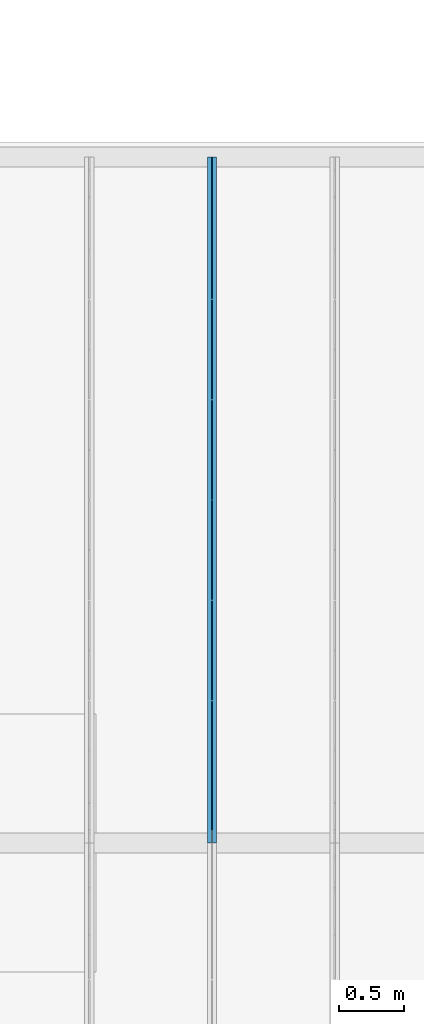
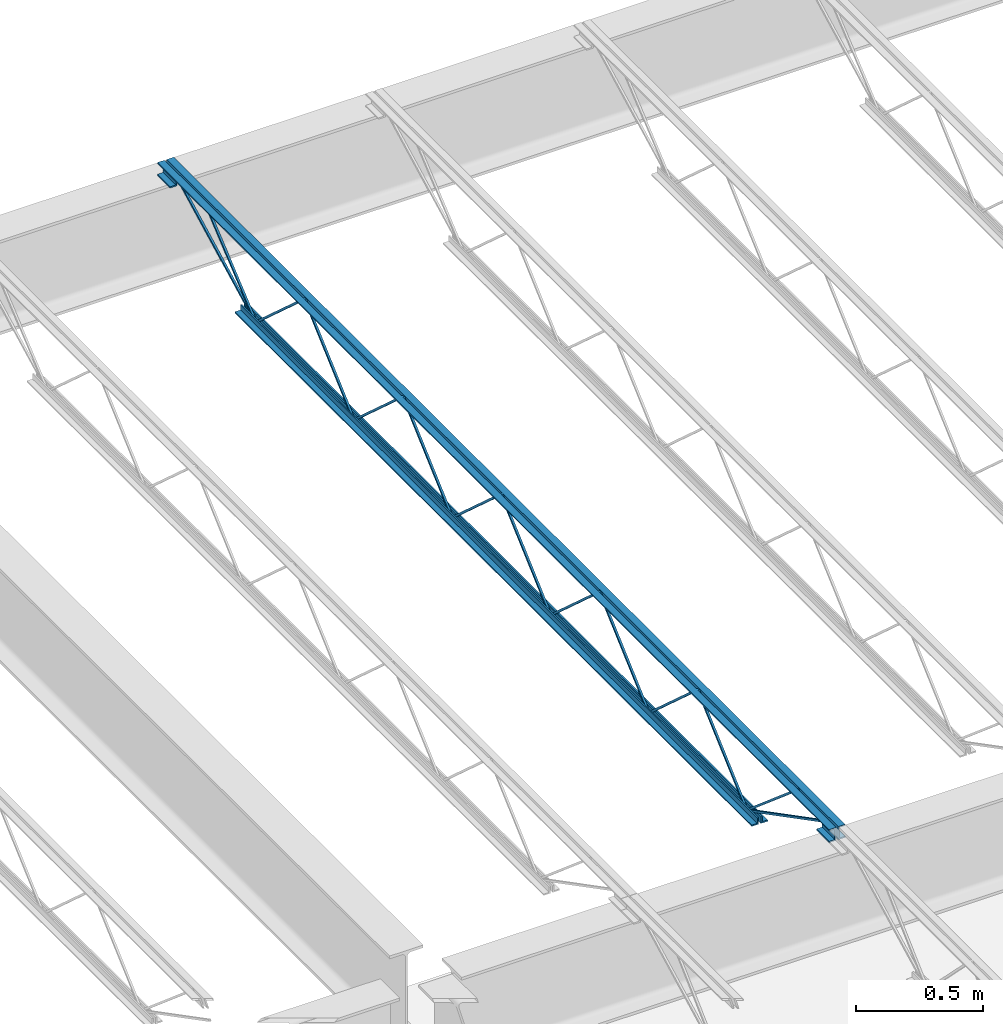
# One storey, part 66 of 75: 1 beam.
"""IFC2X3 building model written with IfcOpenShell, lengths in metres."""

import ifcopenshell
import ifcopenshell.guid

model = None  # the IFC model being written
_history = None  # IfcOwnerHistory: only IFC2X3 demands one
_inside = {}  # id of a spatial element -> (the spatial element, [elements in it])
_under = {}  # id of a project, library or spatial element -> (it, [spatial elements below it])
_declared = {}  # id of a project -> (the project, [libraries it declares])
_typed = {}  # id of a type object -> (the type object, [elements of that type])
_made_of = {}  # id of a material, layer set ... -> (it, [elements and type objects made of it])


def new_model(schema):
    """Start an empty IFC model of exactly this schema.

    Asked for "IFC4X3", IfcOpenShell would pick the latest addendum, in which some entities
    have other attributes; the version numbers below select the first issue.
    IFC2X3 requires an IfcOwnerHistory on every rooted entity: one is made here for all.
    """
    global model, _history
    if schema == "IFC4X3":
        model = ifcopenshell.file(schema_version=(4, 3, 0, 0))
    else:
        model = ifcopenshell.file(schema=schema)
    _inside.clear()
    _under.clear()
    _declared.clear()
    _typed.clear()
    _made_of.clear()
    _history = None
    if model.schema == "IFC2X3":
        org = make("IfcOrganization", Name="unknown")
        user = make(
            "IfcPersonAndOrganization",
            ThePerson=make("IfcPerson", FamilyName="unknown"),
            TheOrganization=org,
        )
        app = make(
            "IfcApplication",
            ApplicationDeveloper=org,
            Version="unknown",
            ApplicationFullName="unknown",
            ApplicationIdentifier="unknown",
        )
        _history = make(
            "IfcOwnerHistory",
            OwningUser=user,
            OwningApplication=app,
            ChangeAction="ADDED",
            CreationDate=0,
        )
    return model


def make(cls, **values):
    """One entity of the class cls with the attributes given. An attribute that is None is left unset."""
    return model.create_entity(
        cls, **{name: value for name, value in values.items() if value is not None}
    )


def entity(cls, *values):
    """Any entity or typed value of the class cls, its attributes in the order of the schema. None: left unset."""
    e = model.create_entity(cls)
    for i, value in enumerate(values):
        if value is not None:
            e[i] = value
    return e


def rooted(cls, **values):
    """An entity with a GlobalId (a new one), such as an element, a storey or a relation."""
    return make(cls, GlobalId=ifcopenshell.guid.new(), OwnerHistory=_history, **values)


def si_unit(unit_type, name, prefix=None):
    """IfcSIUnit, for example si_unit("LENGTHUNIT", "METRE", prefix="MILLI")."""
    return make("IfcSIUnit", UnitType=unit_type, Prefix=prefix, Name=name)


def converted_unit(unit_type, name, factor, base, dimensions=None, offset=None):
    """IfcConversionBasedUnit, such as the inch: factor (a typed value) times the base unit."""
    return make(
        "IfcConversionBasedUnit"
        if offset is None
        else "IfcConversionBasedUnitWithOffset",
        ConversionOffset=offset,
        Dimensions=None
        if dimensions is None
        else entity("IfcDimensionalExponents", *dimensions),
        UnitType=unit_type,
        Name=name,
        ConversionFactor=make(
            "IfcMeasureWithUnit", ValueComponent=factor, UnitComponent=base
        ),
    )


def assignment(units):
    """IfcUnitAssignment: the units of a project."""
    return None if units is None else make("IfcUnitAssignment", Units=units)


def point(xyz):
    """IfcCartesianPoint."""
    return None if xyz is None else make("IfcCartesianPoint", Coordinates=xyz)


def direction(xyz):
    """IfcDirection."""
    return None if xyz is None else make("IfcDirection", DirectionRatios=xyz)


def frame(location, z_axis=None, x_axis=None):
    """IfcAxis2Placement3D, a coordinate frame: its origin and axes. An axis left out is left unset."""
    return make(
        "IfcAxis2Placement3D",
        Location=point(location),
        Axis=direction(z_axis),
        RefDirection=direction(x_axis),
    )


def origin():
    """The frame at (0, 0, 0) with its axes left unset."""
    return frame((0.0, 0.0, 0.0))


def place(relative_to, where):
    """IfcLocalPlacement: puts the frame where relative to a parent placement (None: the world)."""
    return make(
        "IfcLocalPlacement", PlacementRelTo=relative_to, RelativePlacement=where
    )


def context(
    kind, dimensions, precision=None, world=None, true_north=None, identifier=None
):
    """IfcGeometricRepresentationContext, for example the 3D "Model" context."""
    return make(
        "IfcGeometricRepresentationContext",
        ContextIdentifier=identifier,
        ContextType=kind,
        CoordinateSpaceDimension=dimensions,
        Precision=precision,
        WorldCoordinateSystem=world,
        TrueNorth=true_north,
    )


def project(units=None, contexts=None):
    """IfcProject with its units and contexts."""
    return rooted(
        "IfcProject",
        Name="project",
        RepresentationContexts=contexts,
        UnitsInContext=assignment(units),
    )


def spatial(cls, under=None, at=None, **own):
    """A site, building, storey or space (cls), placed at a placement, below another one or the project."""
    s = rooted(cls, ObjectPlacement=at, **own)
    if under is not None:
        _under.setdefault(under.id(), (under, []))[1].append(s)
    return s


def faces_of(points, faces, orient=None, outer=None):
    """IfcFace entities. A face is a list of loops; a loop is a list of indices into points, from 0.

    orient and outer hold one flag for each loop. By default every Orientation is true, the
    first loop of a face is its IfcFaceOuterBound and the others are IfcFaceBound.
    """
    made = []
    for i, loops in enumerate(faces):
        bounds = []
        for j, loop in enumerate(loops):
            is_outer = j == 0 if outer is None else outer[i][j]
            bounds.append(
                make(
                    "IfcFaceOuterBound" if is_outer else "IfcFaceBound",
                    Bound=make("IfcPolyLoop", Polygon=[points[k] for k in loop]),
                    Orientation=True if orient is None else orient[i][j],
                )
            )
        made.append(make("IfcFace", Bounds=bounds))
    return made


def face_set(faces, orient=None, outer=None):
    """The faces of one IfcConnectedFaceSet. surface_model builds it on its shared points."""
    return ("IfcConnectedFaceSet", faces, orient, outer)


def surface_model(cls, points, shells):
    """IfcFaceBasedSurfaceModel or IfcShellBasedSurfaceModel (cls): surfaces that need not close."""
    shared = [point(p) for p in points]
    made = [make(c, CfsFaces=faces_of(shared, fs, o, b)) for c, fs, o, b in shells]
    if cls == "IfcFaceBasedSurfaceModel":
        return make(cls, FbsmFaces=made)
    return make(cls, SbsmBoundary=made)


def shape(context_of_items, identifier, shape_type, items):
    """IfcShapeRepresentation: the items that make up one representation, for example the "Body"."""
    return make(
        "IfcShapeRepresentation",
        ContextOfItems=context_of_items,
        RepresentationIdentifier=identifier,
        RepresentationType=shape_type,
        Items=items,
    )


def made_of(thing, what):
    """Note that an element or type object is made of a material, layer set ...; save() writes the relation."""
    if what is not None:
        _made_of.setdefault(what.id(), (what, []))[1].append(thing)
    return thing


def element(
    cls,
    number,
    at=None,
    inside=None,
    cuts=None,
    type_object=None,
    material=None,
    context=None,
    identifier="Body",
    shape_type=None,
    held_by="IfcProductDefinitionShape",
    body=None,
    shapes=None,
    **own,
):
    """One element of the class cls, such as IfcWall. Its Tag is "e" and its number.

    at: its placement. inside: the storey or other place that contains it. cuts: it is an
    opening in that element (IfcRelVoidsElement). A single representation is given by context,
    identifier, shape_type and body (its items); several are given by shapes. held_by: the class
    of the entity that holds the representations. save() writes the other relations.
    """
    e = rooted(cls, Tag="e%d" % number, ObjectPlacement=at, **own)
    if body is not None:
        shapes = [shape(context, identifier, shape_type, body)]
    if shapes is not None:
        e.Representation = make(held_by, Representations=shapes)
    if inside is not None:
        _inside.setdefault(inside.id(), (inside, []))[1].append(e)
    if cuts is not None:
        rooted(
            "IfcRelVoidsElement", RelatingBuildingElement=cuts, RelatedOpeningElement=e
        )
    if type_object is not None:
        _typed.setdefault(type_object.id(), (type_object, []))[1].append(e)
    return made_of(e, material)


def aggregate(whole, parts):
    """IfcRelAggregates: a whole, such as a stair, and the parts it consists of."""
    return rooted("IfcRelAggregates", RelatingObject=whole, RelatedObjects=parts)


def save(model, path):
    """Write the relations noted so far, then the file.

    IfcRelAggregates (storeys below a building ...), IfcRelContainedInSpatialStructure (elements
    in a storey), IfcRelDefinesByType, IfcRelAssociatesMaterial and IfcRelDeclares: one each for
    every whole, place, type object, material and project.
    """
    for whole, parts in _under.values():
        aggregate(whole, parts)
    for where, things in _inside.values():
        rooted(
            "IfcRelContainedInSpatialStructure",
            RelatedElements=things,
            RelatingStructure=where,
        )
    for kind, things in _typed.values():
        rooted("IfcRelDefinesByType", RelatedObjects=things, RelatingType=kind)
    for what, things in _made_of.values():
        rooted("IfcRelAssociatesMaterial", RelatedObjects=things, RelatingMaterial=what)
    for by, libraries in _declared.values():
        rooted("IfcRelDeclares", RelatingContext=by, RelatedDefinitions=libraries)
    model.write(path)


model = new_model("IFC2X3")

# Units and contexts
model_context = context("Model", 3, precision=1e-09, world=origin())
plan_context = context("Plan", 3, precision=1e-09, world=origin())
ifc_project = project(units=[si_unit("LENGTHUNIT", "METRE"), si_unit("AREAUNIT", "SQUARE_METRE"), si_unit("VOLUMEUNIT", "CUBIC_METRE"), converted_unit("PLANEANGLEUNIT", "DEGREE", entity("IfcRatioMeasure", 0.01745329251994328), si_unit("PLANEANGLEUNIT", "RADIAN"), dimensions=[0, 0, 0, 0, 0, 0, 0]), si_unit("TIMEUNIT", "SECOND")], contexts=[model_context, plan_context])

# Site, building, storey
site_placement = place(None, origin())
site = spatial("IfcSite", under=ifc_project, at=site_placement, Name="Default", CompositionType="ELEMENT")
building_placement = place(site_placement, origin())
building = spatial("IfcBuilding", under=site, at=building_placement, CompositionType="ELEMENT")
storey_placement = place(building_placement, origin())
storey = spatial("IfcBuildingStorey", under=building, at=storey_placement, Name="First Floor", CompositionType="ELEMENT", Elevation=-3.531500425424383e-13)

# Beam
beam_placement = place(storey_placement, frame((-13.01673124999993, 44.78049999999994, 4.112000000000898), z_axis=(0.0, 0.0, 1.0), x_axis=(-1.0, 0.0, 0.0)))
element("IfcBeam", 1, at=beam_placement, inside=storey, Name="M_K-Series Bar Joist-Rod Web:14K1:14K1", ObjectType="M_K-Series Bar Joist-Rod Web:14K1", context=model_context, shape_type="SurfaceModel", body=[
    surface_model("IfcFaceBasedSurfaceModel", [(-0.0320000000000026, -2.266000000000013, 0.01110000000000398), (-0.04150000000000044, -2.266000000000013, 0.01110000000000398), (-0.04150000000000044, -2.266000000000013, 0.001600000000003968), (-0.0320000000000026, -2.266000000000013, 0.001600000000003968), (-0.04150000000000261, -2.264645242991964, 0.01110000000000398), (-0.0320000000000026, -2.264645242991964, 0.01110000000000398), (-0.04150000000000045, -2.26100475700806, 0.001600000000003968), (-0.04149999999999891, -1.878854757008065, 0.3449000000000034), (-0.04149999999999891, -1.876145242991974, 0.3449000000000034), (-0.04149999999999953, -1.493995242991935, 0.001600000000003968), (-0.04149999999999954, -1.489000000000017, 0.001600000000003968), (-0.04149999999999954, -1.489000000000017, 0.01110000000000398), (-0.04149999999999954, -1.490354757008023, 0.01110000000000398), (-0.04150000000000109, -1.872504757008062, 0.3544000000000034), (-0.04150000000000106, -1.882495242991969, 0.3544000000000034), (-0.03200000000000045, -2.26100475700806, 0.001600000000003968), (-0.03200000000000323, -1.878854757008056, 0.3449000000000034), (-0.03200000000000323, -1.876145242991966, 0.3449000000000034), (-0.0320000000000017, -1.493995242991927, 0.001600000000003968), (-0.03200000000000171, -1.489000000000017, 0.001600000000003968), (-0.03200000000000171, -1.489000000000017, 0.01110000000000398), (-0.0320000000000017, -1.490354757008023, 0.01110000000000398), (-0.03200000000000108, -1.872504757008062, 0.3544000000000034), (-0.03200000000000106, -1.882495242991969, 0.3544000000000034), (-0.03200000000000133, -3.04300000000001, 0.01110000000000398), (-0.04149999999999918, -3.04300000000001, 0.01110000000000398), (-0.04149999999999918, -3.04300000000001, 0.001600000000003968), (-0.03200000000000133, -3.04300000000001, 0.001600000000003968), (-0.04150000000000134, -3.041645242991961, 0.01110000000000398), (-0.03200000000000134, -3.041645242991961, 0.01110000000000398), (-0.04149999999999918, -3.038004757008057, 0.001600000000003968), (-0.0414999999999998, -2.655854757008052, 0.3449000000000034), (-0.04149999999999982, -2.653145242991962, 0.3449000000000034), (-0.04150000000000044, -2.270995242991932, 0.001600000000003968), (-0.04149999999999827, -2.266000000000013, 0.01110000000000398), (-0.04149999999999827, -2.26735475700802, 0.01110000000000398), (-0.04149999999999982, -2.649504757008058, 0.3544000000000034), (-0.0414999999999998, -2.659495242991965, 0.3544000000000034), (-0.03199999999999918, -3.038004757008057, 0.001600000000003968), (-0.03200000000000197, -2.655854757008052, 0.3449000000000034), (-0.03200000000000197, -2.653145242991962, 0.3449000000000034), (-0.03200000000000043, -2.270995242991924, 0.001600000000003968), (-0.03200000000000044, -2.266000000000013, 0.001600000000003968), (-0.0320000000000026, -2.26735475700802, 0.01110000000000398), (-0.03200000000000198, -2.649504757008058, 0.3544000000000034), (-0.03200000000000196, -2.659495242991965, 0.3544000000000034), (-0.03200000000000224, -3.820000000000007, 0.01110000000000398), (-0.04150000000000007, -3.820000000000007, 0.01110000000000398), (-0.04150000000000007, -3.820000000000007, 0.001600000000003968), (-0.03200000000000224, -3.820000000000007, 0.001600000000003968), (-0.04150000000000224, -3.818645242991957, 0.01110000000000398), (-0.03200000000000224, -3.818645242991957, 0.01110000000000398), (-0.04150000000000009, -3.815004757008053, 0.001600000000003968), (-0.0415000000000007, -3.432854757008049, 0.3449000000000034), (-0.04150000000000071, -3.430145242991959, 0.3449000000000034), (-0.04149999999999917, -3.04799524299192, 0.001600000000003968), (-0.04149999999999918, -3.043000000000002, 0.001600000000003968), (-0.04149999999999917, -3.044354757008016, 0.01110000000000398), (-0.04150000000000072, -3.426504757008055, 0.3544000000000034), (-0.0415000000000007, -3.436495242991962, 0.3544000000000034), (-0.03200000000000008, -3.815004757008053, 0.001600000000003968), (-0.03200000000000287, -3.432854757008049, 0.3449000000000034), (-0.03200000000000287, -3.430145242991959, 0.3449000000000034), (-0.03200000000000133, -3.04799524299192, 0.001600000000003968), (-0.03200000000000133, -3.043000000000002, 0.01110000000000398), (-0.03200000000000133, -3.044354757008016, 0.01110000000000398), (-0.03200000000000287, -3.426504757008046, 0.3544000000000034), (-0.03200000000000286, -3.436495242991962, 0.3544000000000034), (-0.03200000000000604, -1.489000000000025, 0.01109999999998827), (-0.04150000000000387, -1.489000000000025, 0.01109999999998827), (-0.04150000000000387, -1.489000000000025, 0.001599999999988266), (-0.03200000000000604, -1.489000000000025, 0.001599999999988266), (-0.04150000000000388, -1.487645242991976, 0.01109999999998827), (-0.03200000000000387, -1.487645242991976, 0.01109999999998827), (-0.04150000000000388, -1.484004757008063, 0.001599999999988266), (-0.04150000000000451, -1.101854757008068, 0.3448999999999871), (-0.04150000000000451, -1.099145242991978, 0.3448999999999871), (-0.04150000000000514, -0.7169952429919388, 0.001599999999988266), (-0.04150000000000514, -0.7120000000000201, 0.001599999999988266), (-0.04150000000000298, -0.7120000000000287, 0.01109999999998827), (-0.04150000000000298, -0.7133547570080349, 0.01109999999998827), (-0.04150000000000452, -1.095504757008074, 0.3543999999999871), (-0.0415000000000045, -1.10549524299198, 0.3543999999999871), (-0.03200000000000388, -1.484004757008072, 0.001599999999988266), (-0.0320000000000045, -1.101854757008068, 0.3448999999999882), (-0.0320000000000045, -1.099145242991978, 0.3448999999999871), (-0.03200000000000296, -0.7169952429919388, 0.001599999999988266), (-0.03200000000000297, -0.7120000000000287, 0.001599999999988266), (-0.0320000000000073, -0.7120000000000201, 0.01109999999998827), (-0.03200000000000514, -0.7133547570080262, 0.01109999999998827), (-0.03200000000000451, -1.095504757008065, 0.3543999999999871), (-0.0320000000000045, -1.105495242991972, 0.3543999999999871), (-0.03200000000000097, -4.597000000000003, 0.01110000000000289), (-0.04149999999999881, -4.597000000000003, 0.01110000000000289), (-0.04149999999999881, -4.597000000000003, 0.001600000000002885), (-0.03200000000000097, -4.597000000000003, 0.001600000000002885), (-0.04150000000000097, -4.595645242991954, 0.01110000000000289), (-0.03200000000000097, -4.595645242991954, 0.01110000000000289), (-0.04149999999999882, -4.592004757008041, 0.001600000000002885), (-0.04149999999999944, -4.209854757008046, 0.3449000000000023), (-0.04149999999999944, -4.207145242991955, 0.3449000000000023), (-0.04150000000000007, -3.824995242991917, 0.001600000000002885), (-0.04150000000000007, -3.819999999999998, 0.001600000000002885), (-0.04149999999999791, -3.820000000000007, 0.01110000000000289), (-0.04149999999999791, -3.821354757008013, 0.01110000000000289), (-0.04149999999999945, -4.203504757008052, 0.3544000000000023), (-0.04149999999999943, -4.213495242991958, 0.3544000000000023), (-0.03199999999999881, -4.592004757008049, 0.001600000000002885), (-0.0320000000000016, -4.209854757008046, 0.3449000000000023), (-0.0320000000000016, -4.207145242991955, 0.3449000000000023), (-0.03200000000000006, -3.824995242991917, 0.001600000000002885), (-0.03200000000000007, -3.820000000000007, 0.001600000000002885), (-0.03200000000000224, -3.819999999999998, 0.01110000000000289), (-0.03200000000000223, -3.821354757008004, 0.01110000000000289), (-0.03200000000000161, -4.203504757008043, 0.3544000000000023), (-0.03200000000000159, -4.213495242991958, 0.3544000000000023), (-0.04150000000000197, 0.0, 0.3559999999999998), (-0.07350000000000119, 0.0, 0.3559999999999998), (-0.07350000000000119, 0.0, 0.349499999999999), (-0.04800000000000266, 0.0, 0.349499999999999), (-0.04800000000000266, 0.0, 0.3239999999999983), (-0.04150000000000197, 0.0, 0.3239999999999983), (-0.03200000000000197, 0.0, 0.3559999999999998), (-0.03200000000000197, 0.0, 0.3239999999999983), (-0.02550000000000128, 0.0, 0.3239999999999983), (-0.02550000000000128, 0.0, 0.349499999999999), (0.0, 0.0, 0.349499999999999), (0.0, 0.0, 0.3559999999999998), (-0.04150000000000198, -5.309000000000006, 0.3559999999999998), (-0.0735000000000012, -5.309000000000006, 0.3559999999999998), (-0.0735000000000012, -5.309000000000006, 0.349499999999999), (-0.04800000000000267, -5.309000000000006, 0.349499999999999), (-0.04800000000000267, -5.309000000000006, 0.3239999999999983), (-0.04150000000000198, -5.309000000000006, 0.3239999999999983), (-0.03200000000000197, -5.309000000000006, 0.3559999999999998), (-0.03200000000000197, -5.309000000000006, 0.3239999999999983), (-0.02550000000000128, -5.309000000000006, 0.3239999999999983), (-0.02550000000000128, -5.309000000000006, 0.349499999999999), (0.0, -5.309000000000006, 0.349499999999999), (0.0, -5.309000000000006, 0.3559999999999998), (-0.03200000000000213, -5.20900000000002, 0.2924999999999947), (0.0, -5.20900000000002, 0.2924999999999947), (0.0, -5.20900000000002, 0.2989999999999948), (-0.02550000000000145, -5.20900000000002, 0.2989999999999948), (-0.02550000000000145, -5.20900000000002, 0.3239999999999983), (-0.03200000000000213, -5.20900000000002, 0.3239999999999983), (-0.07350000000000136, -5.20900000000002, 0.2924999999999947), (-0.04150000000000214, -5.20900000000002, 0.2924999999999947), (-0.04150000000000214, -5.20900000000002, 0.3239999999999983), (-0.04800000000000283, -5.20900000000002, 0.3239999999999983), (-0.04800000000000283, -5.20900000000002, 0.2989999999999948), (-0.07350000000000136, -5.20900000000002, 0.2989999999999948), (-0.03200000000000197, -5.309000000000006, 0.2924999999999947), (0.0, -5.309000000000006, 0.2924999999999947), (0.0, -5.309000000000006, 0.2989999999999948), (-0.02550000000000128, -5.309000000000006, 0.2989999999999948), (-0.0735000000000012, -5.309000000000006, 0.2924999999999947), (-0.04150000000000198, -5.309000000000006, 0.2924999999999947), (-0.04800000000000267, -5.309000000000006, 0.2989999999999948), (-0.0735000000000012, -5.309000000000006, 0.2989999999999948), (-0.04150000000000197, 0.0, 0.2924999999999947), (-0.04800000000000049, 0.0, 0.3239999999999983), (-0.04800000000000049, 0.0, 0.2989999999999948), (-0.07350000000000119, 0.0, 0.2989999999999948), (-0.07350000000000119, 0.0, 0.2924999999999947), (-0.03200000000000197, 0.0, 0.2924999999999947), (0.0, 0.0, 0.2924999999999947), (0.0, 0.0, 0.2989999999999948), (-0.02550000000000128, 0.0, 0.2989999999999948), (-0.04150000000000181, -0.1000000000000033, 0.2924999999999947), (-0.04150000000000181, -0.1000000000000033, 0.3239999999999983), (-0.04800000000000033, -0.1000000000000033, 0.3239999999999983), (-0.04800000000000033, -0.1000000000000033, 0.2989999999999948), (-0.07350000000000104, -0.1000000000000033, 0.2989999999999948), (-0.07350000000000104, -0.1000000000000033, 0.2924999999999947), (-0.03200000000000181, -0.1000000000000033, 0.2924999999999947), (0.0, -0.1000000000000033, 0.2924999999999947), (0.0, -0.1000000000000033, 0.2989999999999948), (-0.02550000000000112, -0.1000000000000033, 0.2989999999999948), (-0.02550000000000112, -0.1000000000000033, 0.3239999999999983), (-0.03200000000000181, -0.1000000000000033, 0.3239999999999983), (-0.04150000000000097, -0.6119999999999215, 0.0), (-0.04150000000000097, -0.6119999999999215, 0.03199999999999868), (-0.04800000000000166, -0.6119999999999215, 0.03199999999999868), (-0.04800000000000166, -0.6119999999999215, 0.006499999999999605), (-0.07350000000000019, -0.6119999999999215, 0.006499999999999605), (-0.07350000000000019, -0.6119999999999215, 0.0), (-0.03200000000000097, -0.6119999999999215, 0.0), (0.0, -0.6119999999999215, 0.0), (0.0, -0.6119999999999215, 0.006499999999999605), (-0.02550000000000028, -0.6119999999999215, 0.006499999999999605), (-0.02550000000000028, -0.6119999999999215, 0.03199999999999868), (-0.03200000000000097, -0.6119999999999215, 0.03199999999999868), (-0.04150000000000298, -4.696999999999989, 0.0), (-0.04150000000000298, -4.696999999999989, 0.03199999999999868), (-0.04800000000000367, -4.696999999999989, 0.03199999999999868), (-0.04800000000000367, -4.696999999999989, 0.006499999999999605), (-0.0735000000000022, -4.696999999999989, 0.006499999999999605), (-0.0735000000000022, -4.696999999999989, 0.0), (-0.03200000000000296, -4.696999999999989, 0.0), (0.0, -4.696999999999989, 0.0), (0.0, -4.696999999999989, 0.006499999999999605), (-0.02550000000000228, -4.696999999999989, 0.006499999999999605), (-0.02550000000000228, -4.696999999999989, 0.03199999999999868), (-0.03200000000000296, -4.696999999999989, 0.03199999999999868), (-0.03199999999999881, -4.594811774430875, 0.01056594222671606), (-0.04149999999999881, -4.594811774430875, 0.01056594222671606), (-0.04149999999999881, -4.599188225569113, 0.002134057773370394), (-0.03200000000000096, -4.599188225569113, 0.002134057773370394), (-0.0319999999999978, -5.207840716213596, 0.3287499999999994), (-0.0319999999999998, -5.308999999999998, 0.3287499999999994), (-0.03200000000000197, -5.308999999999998, 0.3192499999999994), (-0.03200000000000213, -5.210159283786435, 0.3192499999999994), (-0.04149999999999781, -5.210159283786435, 0.3192499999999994), (-0.04149999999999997, -5.207840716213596, 0.3287499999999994), (-0.04149999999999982, -5.308999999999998, 0.3287499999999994), (-0.04149999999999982, -5.309000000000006, 0.3192499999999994), (-0.03200000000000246, -5.005457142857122, 0.341700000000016), (-0.0415000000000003, -5.005457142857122, 0.341700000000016), (-0.0415000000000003, -5.005457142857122, 0.332200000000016), (-0.03200000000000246, -5.005457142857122, 0.332200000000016), (-0.04150000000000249, -4.991034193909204, 0.341700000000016), (-0.03200000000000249, -4.991034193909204, 0.341700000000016), (-0.04150000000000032, -4.994480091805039, 0.332200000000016), (-0.0414999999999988, -4.600045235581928, 0.002704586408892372), (-0.04150000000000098, -4.593954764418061, 0.009995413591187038), (-0.03200000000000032, -4.994480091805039, 0.332200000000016), (-0.03200000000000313, -4.600045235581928, 0.002704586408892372), (-0.03199999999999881, -4.593954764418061, 0.009995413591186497), (-0.03199999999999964, -0.09781177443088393, 0.3197840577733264), (-0.03200000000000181, -0.1021882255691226, 0.3282159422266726), (-0.04150000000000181, -0.1021882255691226, 0.3282159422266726), (-0.04149999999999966, -0.09781177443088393, 0.3197840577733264), (-0.03200000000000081, -0.7098117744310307, 0.002134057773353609), (-0.03200000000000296, -0.7141882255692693, 0.01056594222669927), (-0.04150000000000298, -0.7141882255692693, 0.01056594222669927), (-0.04150000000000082, -0.7098117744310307, 0.002134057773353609), (-0.0319999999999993, -0.3059055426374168, 0.3460340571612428), (-0.03200000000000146, -0.3120658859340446, 0.3532659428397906), (-0.04150000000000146, -0.3120658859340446, 0.3532659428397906), (-0.04149999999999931, -0.3059055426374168, 0.3460340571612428), (-0.03200000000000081, -0.7089198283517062, 0.002734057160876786), (-0.03200000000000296, -0.7150801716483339, 0.009965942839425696), (-0.04150000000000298, -0.7150801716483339, 0.009965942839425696), (-0.04150000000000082, -0.7089198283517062, 0.002734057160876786)], [face_set([[[0, 1, 2, 3]], [[1, 4, 5, 0]], [[2, 6, 7, 8, 9, 10, 11, 12, 13, 14, 4, 1]], [[3, 2, 6, 15]], [[0, 3, 15, 16, 17, 18, 19, 20, 21, 22, 23, 5]], [[4, 5, 23, 14]], [[15, 16, 7, 6]], [[14, 13, 22, 23]], [[16, 7, 8, 17]], [[13, 12, 21, 22]], [[17, 8, 9, 18]], [[20, 11, 10, 19]], [[12, 11, 20, 21]], [[18, 9, 10, 19]]]), face_set([[[24, 25, 26, 27]], [[25, 28, 29, 24]], [[26, 30, 31, 32, 33, 2, 34, 35, 36, 37, 28, 25]], [[27, 26, 30, 38]], [[24, 27, 38, 39, 40, 41, 42, 0, 43, 44, 45, 29]], [[28, 29, 45, 37]], [[38, 39, 31, 30]], [[37, 36, 44, 45]], [[39, 31, 32, 40]], [[36, 35, 43, 44]], [[40, 32, 33, 41]], [[0, 34, 2, 42]], [[35, 34, 0, 43]], [[41, 33, 2, 42]]]), face_set([[[46, 47, 48, 49]], [[47, 50, 51, 46]], [[48, 52, 53, 54, 55, 56, 25, 57, 58, 59, 50, 47]], [[49, 48, 52, 60]], [[46, 49, 60, 61, 62, 63, 27, 64, 65, 66, 67, 51]], [[50, 51, 67, 59]], [[60, 61, 53, 52]], [[59, 58, 66, 67]], [[61, 53, 54, 62]], [[58, 57, 65, 66]], [[62, 54, 55, 63]], [[64, 25, 56, 27]], [[57, 25, 64, 65]], [[63, 55, 56, 27]]]), face_set([[[68, 69, 70, 71]], [[69, 72, 73, 68]], [[70, 74, 75, 76, 77, 78, 79, 80, 81, 82, 72, 69]], [[71, 70, 74, 83]], [[68, 71, 83, 84, 85, 86, 87, 88, 89, 90, 91, 73]], [[72, 73, 91, 82]], [[83, 84, 75, 74]], [[82, 81, 90, 91]], [[84, 75, 76, 85]], [[81, 80, 89, 90]], [[85, 76, 77, 86]], [[88, 79, 78, 87]], [[80, 79, 88, 89]], [[86, 77, 78, 87]]]), face_set([[[92, 93, 94, 95]], [[93, 96, 97, 92]], [[94, 98, 99, 100, 101, 102, 103, 104, 105, 106, 96, 93]], [[95, 94, 98, 107]], [[92, 95, 107, 108, 109, 110, 111, 112, 113, 114, 115, 97]], [[96, 97, 115, 106]], [[107, 108, 99, 98]], [[106, 105, 114, 115]], [[108, 99, 100, 109]], [[105, 104, 113, 114]], [[109, 100, 101, 110]], [[112, 103, 102, 111]], [[104, 103, 112, 113]], [[110, 101, 102, 111]]]), face_set([[[116, 117, 118, 119, 120, 121]], [[122, 123, 124, 125, 126, 127]], [[128, 129, 130, 131, 132, 133]], [[134, 135, 136, 137, 138, 139]], [[121, 116, 128, 133]], [[120, 121, 133, 132]], [[119, 131, 132, 120]], [[118, 119, 131, 130]], [[117, 129, 130, 118]], [[116, 128, 129, 117]], [[127, 139, 134, 122]], [[126, 127, 139, 138]], [[125, 126, 138, 137]], [[124, 125, 137, 136]], [[123, 124, 136, 135]], [[122, 134, 135, 123]]]), face_set([[[140, 141, 142, 143, 144, 145]], [[146, 147, 148, 149, 150, 151]], [[152, 153, 154, 155, 136, 135]], [[156, 157, 133, 132, 158, 159]], [[145, 135, 152, 140]], [[144, 136, 135, 145]], [[143, 144, 136, 155]], [[142, 154, 155, 143]], [[141, 142, 154, 153]], [[140, 141, 153, 152]], [[151, 159, 156, 146]], [[150, 158, 159, 151]], [[149, 132, 158, 150]], [[148, 133, 132, 149]], [[147, 148, 133, 157]], [[146, 147, 157, 156]]]), face_set([[[160, 121, 161, 162, 163, 164]], [[165, 166, 167, 168, 124, 123]], [[169, 170, 171, 172, 173, 174]], [[175, 176, 177, 178, 179, 180]], [[164, 160, 169, 174]], [[163, 173, 174, 164]], [[162, 172, 173, 163]], [[161, 171, 172, 162]], [[121, 170, 171, 161]], [[160, 121, 170, 169]], [[123, 180, 175, 165]], [[124, 179, 180, 123]], [[168, 124, 179, 178]], [[167, 177, 178, 168]], [[166, 167, 177, 176]], [[165, 166, 176, 175]]]), face_set([[[181, 182, 183, 184, 185, 186]], [[187, 188, 189, 190, 191, 192]], [[193, 194, 195, 196, 197, 198]], [[199, 200, 201, 202, 203, 204]], [[186, 181, 193, 198]], [[185, 197, 198, 186]], [[184, 196, 197, 185]], [[183, 195, 196, 184]], [[182, 194, 195, 183]], [[181, 182, 194, 193]], [[192, 204, 199, 187]], [[191, 203, 204, 192]], [[190, 191, 203, 202]], [[189, 201, 202, 190]], [[188, 189, 201, 200]], [[187, 188, 200, 199]]]), face_set([[[205, 206, 207, 208]], [[208, 205, 209, 210, 211, 212]], [[207, 208, 212, 213]], [[206, 214, 215, 216, 213, 207]], [[205, 209, 214, 206]], [[210, 215, 216, 211]], [[213, 212, 211, 216]], [[209, 210, 215, 214]]]), face_set([[[217, 218, 219, 220]], [[218, 221, 222, 217]], [[219, 223, 224, 225, 221, 218]], [[220, 219, 223, 226]], [[217, 220, 226, 227, 228, 222]], [[228, 225, 224, 227]], [[221, 225, 228, 222]], [[226, 223, 224, 227]]]), face_set([[[229, 230, 231, 232]], [[233, 234, 235, 236]], [[232, 236, 233, 229]], [[231, 235, 236, 232]], [[230, 231, 235, 234]], [[229, 230, 234, 233]]]), face_set([[[237, 238, 239, 240]], [[241, 242, 243, 244]], [[240, 244, 241, 237]], [[239, 243, 244, 240]], [[238, 239, 243, 242]], [[237, 238, 242, 241]]])]),
])

save(model, "model.ifc")
